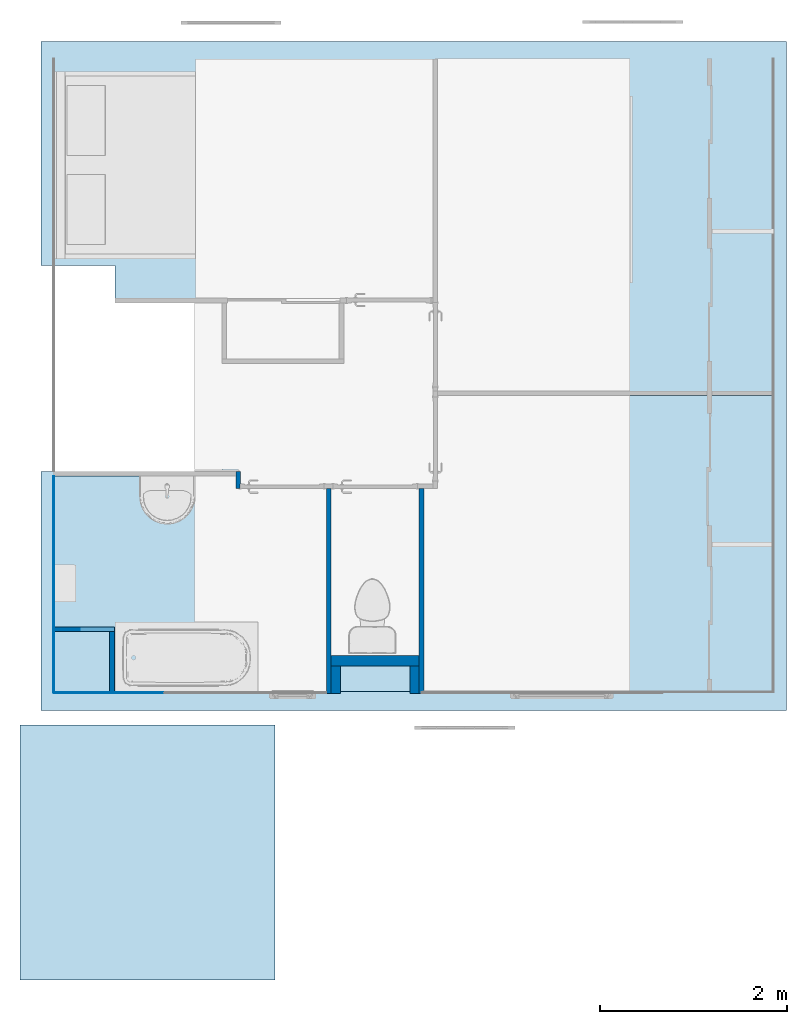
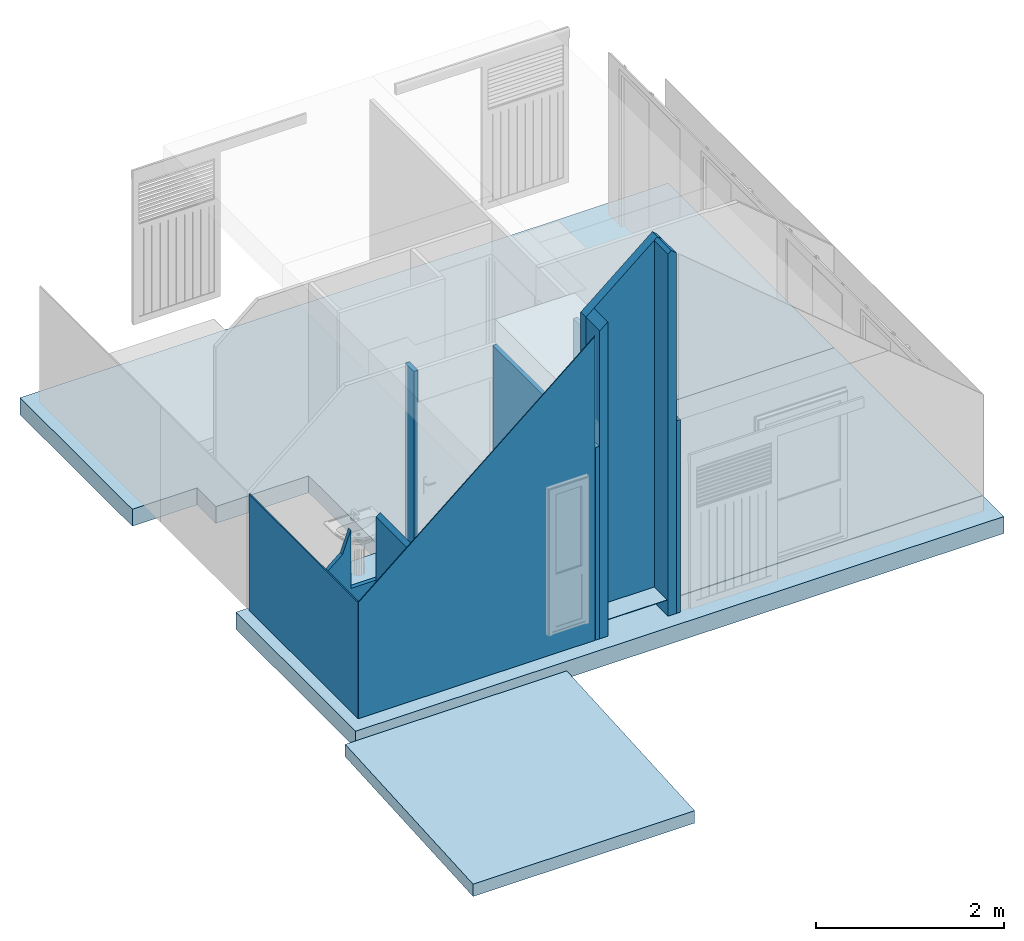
# One storey, part 1 of 11: 10 walls, 5 slabs, 1 opening.
"""IFC2X3 building model written with IfcOpenShell, lengths in metres."""

import ifcopenshell
import ifcopenshell.guid

model = None  # the IFC model being written
_history = None  # IfcOwnerHistory: only IFC2X3 demands one
_inside = {}  # id of a spatial element -> (the spatial element, [elements in it])
_under = {}  # id of a project, library or spatial element -> (it, [spatial elements below it])
_declared = {}  # id of a project -> (the project, [libraries it declares])
_typed = {}  # id of a type object -> (the type object, [elements of that type])
_made_of = {}  # id of a material, layer set ... -> (it, [elements and type objects made of it])


def new_model(schema):
    """Start an empty IFC model of exactly this schema.

    Asked for "IFC4X3", IfcOpenShell would pick the latest addendum, in which some entities
    have other attributes; the version numbers below select the first issue.
    IFC2X3 requires an IfcOwnerHistory on every rooted entity: one is made here for all.
    """
    global model, _history
    if schema == "IFC4X3":
        model = ifcopenshell.file(schema_version=(4, 3, 0, 0))
    else:
        model = ifcopenshell.file(schema=schema)
    _inside.clear()
    _under.clear()
    _declared.clear()
    _typed.clear()
    _made_of.clear()
    _history = None
    if model.schema == "IFC2X3":
        org = make("IfcOrganization", Name="unknown")
        user = make(
            "IfcPersonAndOrganization",
            ThePerson=make("IfcPerson", FamilyName="unknown"),
            TheOrganization=org,
        )
        app = make(
            "IfcApplication",
            ApplicationDeveloper=org,
            Version="unknown",
            ApplicationFullName="unknown",
            ApplicationIdentifier="unknown",
        )
        _history = make(
            "IfcOwnerHistory",
            OwningUser=user,
            OwningApplication=app,
            ChangeAction="ADDED",
            CreationDate=0,
        )
    return model


def make(cls, **values):
    """One entity of the class cls with the attributes given. An attribute that is None is left unset."""
    return model.create_entity(
        cls, **{name: value for name, value in values.items() if value is not None}
    )


def entity(cls, *values):
    """Any entity or typed value of the class cls, its attributes in the order of the schema. None: left unset."""
    e = model.create_entity(cls)
    for i, value in enumerate(values):
        if value is not None:
            e[i] = value
    return e


def rooted(cls, **values):
    """An entity with a GlobalId (a new one), such as an element, a storey or a relation."""
    return make(cls, GlobalId=ifcopenshell.guid.new(), OwnerHistory=_history, **values)


def si_unit(unit_type, name, prefix=None):
    """IfcSIUnit, for example si_unit("LENGTHUNIT", "METRE", prefix="MILLI")."""
    return make("IfcSIUnit", UnitType=unit_type, Prefix=prefix, Name=name)


def converted_unit(unit_type, name, factor, base, dimensions=None, offset=None):
    """IfcConversionBasedUnit, such as the inch: factor (a typed value) times the base unit."""
    return make(
        "IfcConversionBasedUnit"
        if offset is None
        else "IfcConversionBasedUnitWithOffset",
        ConversionOffset=offset,
        Dimensions=None
        if dimensions is None
        else entity("IfcDimensionalExponents", *dimensions),
        UnitType=unit_type,
        Name=name,
        ConversionFactor=make(
            "IfcMeasureWithUnit", ValueComponent=factor, UnitComponent=base
        ),
    )


def derived_unit(unit_type, elements):
    """IfcDerivedUnit: a product of units, each with its exponent."""
    return make(
        "IfcDerivedUnit",
        Elements=[
            make("IfcDerivedUnitElement", Unit=unit, Exponent=power)
            for unit, power in elements
        ],
        UnitType=unit_type,
    )


def assignment(units):
    """IfcUnitAssignment: the units of a project."""
    return None if units is None else make("IfcUnitAssignment", Units=units)


def point(xyz):
    """IfcCartesianPoint."""
    return None if xyz is None else make("IfcCartesianPoint", Coordinates=xyz)


def direction(xyz):
    """IfcDirection."""
    return None if xyz is None else make("IfcDirection", DirectionRatios=xyz)


def frame(location, z_axis=None, x_axis=None):
    """IfcAxis2Placement3D, a coordinate frame: its origin and axes. An axis left out is left unset."""
    return make(
        "IfcAxis2Placement3D",
        Location=point(location),
        Axis=direction(z_axis),
        RefDirection=direction(x_axis),
    )


def frame_2d(location, x_axis=None):
    """IfcAxis2Placement2D, a coordinate frame in the plane: its origin and x axis."""
    return make(
        "IfcAxis2Placement2D", Location=point(location), RefDirection=direction(x_axis)
    )


def origin():
    """The frame at (0, 0, 0) with its axes left unset."""
    return frame((0.0, 0.0, 0.0))


def place(relative_to, where):
    """IfcLocalPlacement: puts the frame where relative to a parent placement (None: the world)."""
    return make(
        "IfcLocalPlacement", PlacementRelTo=relative_to, RelativePlacement=where
    )


def context(
    kind, dimensions, precision=None, world=None, true_north=None, identifier=None
):
    """IfcGeometricRepresentationContext, for example the 3D "Model" context."""
    return make(
        "IfcGeometricRepresentationContext",
        ContextIdentifier=identifier,
        ContextType=kind,
        CoordinateSpaceDimension=dimensions,
        Precision=precision,
        WorldCoordinateSystem=world,
        TrueNorth=true_north,
    )


def subcontext(parent, identifier, kind, view, scale=None):
    """IfcGeometricRepresentationSubContext, for example "Body" below "Model"."""
    return make(
        "IfcGeometricRepresentationSubContext",
        ContextIdentifier=identifier,
        ContextType=kind,
        ParentContext=parent,
        TargetScale=scale,
        TargetView=view,
    )


def project(units=None, contexts=None):
    """IfcProject with its units and contexts."""
    return rooted(
        "IfcProject",
        Name="project",
        RepresentationContexts=contexts,
        UnitsInContext=assignment(units),
    )


def spatial(cls, under=None, at=None, **own):
    """A site, building, storey or space (cls), placed at a placement, below another one or the project."""
    s = rooted(cls, ObjectPlacement=at, **own)
    if under is not None:
        _under.setdefault(under.id(), (under, []))[1].append(s)
    return s


def polyline(points):
    """IfcPolyline through the points."""
    return make("IfcPolyline", Points=[point(p) for p in points])


def profile(cls, at=None, kind="AREA", **sizes):
    """A parametric profile (cls). Its sizes go by their IFC names, for example OverallWidth=200.0."""
    return make(cls, ProfileType=kind, Position=at, **sizes)


def rectangle(**sizes):
    """IfcRectangleProfileDef."""
    return profile("IfcRectangleProfileDef", **sizes)


def outline(outer, holes=None, kind="AREA"):
    """IfcArbitraryClosedProfileDef: a profile drawn as a closed curve; with holes, ...WithVoids."""
    if holes is None:
        return make("IfcArbitraryClosedProfileDef", ProfileType=kind, OuterCurve=outer)
    return make(
        "IfcArbitraryProfileDefWithVoids",
        ProfileType=kind,
        OuterCurve=outer,
        InnerCurves=holes,
    )


def extrude(swept, where, along, depth):
    """IfcExtrudedAreaSolid: the profile swept, set in the frame where, extruded along a direction by depth."""
    return make(
        "IfcExtrudedAreaSolid",
        SweptArea=swept,
        Position=where,
        ExtrudedDirection=direction(along),
        Depth=depth,
    )


def clip(a, b, op="DIFFERENCE"):
    """IfcBooleanClippingResult: the solid a cut by the half space b."""
    return make(
        "IfcBooleanClippingResult", Operator=op, FirstOperand=a, SecondOperand=b
    )


def halfspace(plane, agree):
    """IfcHalfSpaceSolid: all space on one side of the plane z = 0 of the frame plane."""
    return make(
        "IfcHalfSpaceSolid",
        BaseSurface=make("IfcPlane", Position=plane),
        AgreementFlag=agree,
    )


def bounded_halfspace(plane, agree, where, boundary):
    """IfcPolygonalBoundedHalfSpace: a half space limited to a polygon's prism."""
    return make(
        "IfcPolygonalBoundedHalfSpace",
        BaseSurface=make("IfcPlane", Position=plane),
        AgreementFlag=agree,
        Position=where,
        PolygonalBoundary=boundary,
    )


def shape(context_of_items, identifier, shape_type, items):
    """IfcShapeRepresentation: the items that make up one representation, for example the "Body"."""
    return make(
        "IfcShapeRepresentation",
        ContextOfItems=context_of_items,
        RepresentationIdentifier=identifier,
        RepresentationType=shape_type,
        Items=items,
    )


def material(Name=None, Category=None):
    """IfcMaterial."""
    return make("IfcMaterial", Name=Name, Category=Category)


def layer(
    of_material, thickness, ventilated=None, Name=None, Category=None, Priority=None
):
    """IfcMaterialLayer: one layer of a wall or slab, of a material (None: an air gap)."""
    return make(
        "IfcMaterialLayer",
        Material=of_material,
        LayerThickness=thickness,
        IsVentilated=ventilated,
        Name=Name,
        Category=Category,
        Priority=Priority,
    )


def layer_set(layers, Name=None):
    """IfcMaterialLayerSet."""
    return make("IfcMaterialLayerSet", MaterialLayers=layers, LayerSetName=Name)


def layer_usage(for_layer_set, set_direction, sense, offset, extent=None):
    """IfcMaterialLayerSetUsage: how a layer set lies in its element."""
    return make(
        "IfcMaterialLayerSetUsage",
        ForLayerSet=for_layer_set,
        LayerSetDirection=set_direction,
        DirectionSense=sense,
        OffsetFromReferenceLine=offset,
        ReferenceExtent=extent,
    )


def made_of(thing, what):
    """Note that an element or type object is made of a material, layer set ...; save() writes the relation."""
    if what is not None:
        _made_of.setdefault(what.id(), (what, []))[1].append(thing)
    return thing


def type_object(cls, material=None, **own):
    """A type object (cls), such as IfcWallType, which elements share."""
    return made_of(rooted(cls, **own), material)


def element(
    cls,
    number,
    at=None,
    inside=None,
    cuts=None,
    type_object=None,
    material=None,
    context=None,
    identifier="Body",
    shape_type=None,
    held_by="IfcProductDefinitionShape",
    body=None,
    shapes=None,
    **own,
):
    """One element of the class cls, such as IfcWall. Its Tag is "e" and its number.

    at: its placement. inside: the storey or other place that contains it. cuts: it is an
    opening in that element (IfcRelVoidsElement). A single representation is given by context,
    identifier, shape_type and body (its items); several are given by shapes. held_by: the class
    of the entity that holds the representations. save() writes the other relations.
    """
    e = rooted(cls, Tag="e%d" % number, ObjectPlacement=at, **own)
    if body is not None:
        shapes = [shape(context, identifier, shape_type, body)]
    if shapes is not None:
        e.Representation = make(held_by, Representations=shapes)
    if inside is not None:
        _inside.setdefault(inside.id(), (inside, []))[1].append(e)
    if cuts is not None:
        rooted(
            "IfcRelVoidsElement", RelatingBuildingElement=cuts, RelatedOpeningElement=e
        )
    if type_object is not None:
        _typed.setdefault(type_object.id(), (type_object, []))[1].append(e)
    return made_of(e, material)


def aggregate(whole, parts):
    """IfcRelAggregates: a whole, such as a stair, and the parts it consists of."""
    return rooted("IfcRelAggregates", RelatingObject=whole, RelatedObjects=parts)


def save(model, path):
    """Write the relations noted so far, then the file.

    IfcRelAggregates (storeys below a building ...), IfcRelContainedInSpatialStructure (elements
    in a storey), IfcRelDefinesByType, IfcRelAssociatesMaterial and IfcRelDeclares: one each for
    every whole, place, type object, material and project.
    """
    for whole, parts in _under.values():
        aggregate(whole, parts)
    for where, things in _inside.values():
        rooted(
            "IfcRelContainedInSpatialStructure",
            RelatedElements=things,
            RelatingStructure=where,
        )
    for kind, things in _typed.values():
        rooted("IfcRelDefinesByType", RelatedObjects=things, RelatingType=kind)
    for what, things in _made_of.values():
        rooted("IfcRelAssociatesMaterial", RelatedObjects=things, RelatingMaterial=what)
    for by, libraries in _declared.values():
        rooted("IfcRelDeclares", RelatingContext=by, RelatedDefinitions=libraries)
    model.write(path)


model = new_model("IFC2X3")

# Units and contexts
model_context = context("Model", 3, precision=1e-05, world=origin(), true_north=direction((6.12303176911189e-17, 1.0)))
body_context = subcontext(model_context, "Body", "Model", "MODEL_VIEW")
ifc_project = project(units=[si_unit("LENGTHUNIT", "METRE"), si_unit("AREAUNIT", "SQUARE_METRE"), si_unit("VOLUMEUNIT", "CUBIC_METRE"), converted_unit("PLANEANGLEUNIT", "DEGREE", entity("IfcRatioMeasure", 0.0174532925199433), si_unit("PLANEANGLEUNIT", "RADIAN"), dimensions=[0, 0, 0, 0, 0, 0, 0]), si_unit("MASSUNIT", "GRAM", prefix="KILO"), derived_unit("MASSDENSITYUNIT", [(si_unit("MASSUNIT", "GRAM", prefix="KILO"), 1), (si_unit("LENGTHUNIT", "METRE"), -3)]), derived_unit("MOMENTOFINERTIAUNIT", [(si_unit("LENGTHUNIT", "METRE"), 4)]), si_unit("TIMEUNIT", "SECOND"), si_unit("FREQUENCYUNIT", "HERTZ"), si_unit("THERMODYNAMICTEMPERATUREUNIT", "DEGREE_CELSIUS"), derived_unit("THERMALTRANSMITTANCEUNIT", [(si_unit("MASSUNIT", "GRAM", prefix="KILO"), 1), (si_unit("THERMODYNAMICTEMPERATUREUNIT", "KELVIN"), -1), (si_unit("TIMEUNIT", "SECOND"), -3)]), derived_unit("VOLUMETRICFLOWRATEUNIT", [(si_unit("LENGTHUNIT", "METRE"), 3), (si_unit("TIMEUNIT", "SECOND"), -1)]), si_unit("ELECTRICCURRENTUNIT", "AMPERE"), si_unit("ELECTRICVOLTAGEUNIT", "VOLT"), si_unit("POWERUNIT", "WATT"), si_unit("FORCEUNIT", "NEWTON", prefix="KILO"), si_unit("ILLUMINANCEUNIT", "LUX"), si_unit("LUMINOUSFLUXUNIT", "LUMEN"), si_unit("LUMINOUSINTENSITYUNIT", "CANDELA"), derived_unit("USERDEFINED", [(si_unit("MASSUNIT", "GRAM", prefix="KILO"), -1), (si_unit("LENGTHUNIT", "METRE"), -2), (si_unit("TIMEUNIT", "SECOND"), 3), (si_unit("LUMINOUSFLUXUNIT", "LUMEN"), 1)]), derived_unit("LINEARVELOCITYUNIT", [(si_unit("LENGTHUNIT", "METRE"), 1), (si_unit("TIMEUNIT", "SECOND"), -1)]), si_unit("PRESSUREUNIT", "PASCAL"), derived_unit("USERDEFINED", [(si_unit("LENGTHUNIT", "METRE"), -2), (si_unit("MASSUNIT", "GRAM", prefix="KILO"), 1), (si_unit("TIMEUNIT", "SECOND"), -2)]), derived_unit("LINEARFORCEUNIT", [(si_unit("MASSUNIT", "GRAM", prefix="KILO"), 1), (si_unit("LENGTHUNIT", "METRE"), 1), (si_unit("TIMEUNIT", "SECOND"), -2), (si_unit("LENGTHUNIT", "METRE"), -1)]), derived_unit("PLANARFORCEUNIT", [(si_unit("MASSUNIT", "GRAM", prefix="KILO"), 1), (si_unit("LENGTHUNIT", "METRE"), 1), (si_unit("TIMEUNIT", "SECOND"), -2), (si_unit("LENGTHUNIT", "METRE"), -2)])], contexts=[model_context])

# Site, building, storey
site_placement = place(None, origin())
site = spatial("IfcSite", under=ifc_project, at=site_placement, Name="Surface", CompositionType="ELEMENT")
building_placement = place(site_placement, origin())
building = spatial("IfcBuilding", under=site, at=building_placement, CompositionType="ELEMENT")
storey_placement = place(building_placement, frame((0.0, 0.0, 2.72)))
storey = spatial("IfcBuildingStorey", under=building, at=storey_placement, Name="02 ETG", CompositionType="ELEMENT", Elevation=2.72)

# Slabs
ifc_material_1 = material(Name="Maçonnerie - Béton Blanc")
ifc_layer_1 = layer(ifc_material_1, 0.16)
ifc_layer_set_1 = layer_set([ifc_layer_1], Name="Sol:Dalle en béton - 16")
ifc_layer_usage_1 = layer_usage(ifc_layer_set_1, "AXIS3", "POSITIVE", 0.0)
slab_type_1 = type_object("IfcSlabType", Name="Sol:Dalle en béton - 16", PredefinedType="FLOOR", material=ifc_layer_set_1)
slab_1_placement = place(storey_placement, origin())
element("IfcSlab", 1, at=slab_1_placement, inside=storey, type_object=slab_type_1, material=ifc_layer_usage_1, Name="Sol:Dalle en béton - 16", ObjectType="Sol:Dalle en béton - 16", PredefinedType="FLOOR", context=body_context, shape_type="Clipping", body=[
    clip(clip(extrude(rectangle(XDim=2.72488245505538, YDim=2.72172542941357, at=frame_2d((-2.22044604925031e-16, 0.0), x_axis=(1.0, 0.0))), frame((6.7406988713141, -5.03586095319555, -0.0831750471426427), z_axis=(0.0, 0.0610485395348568, -0.998134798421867), x_axis=(0.0, 0.998134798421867, 0.0610485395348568)), (-0.0610485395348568, 0.0, 0.998134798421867), 0.160598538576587), halfspace(frame((8.10156158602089, -3.67596095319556, -0.160298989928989), z_axis=(0.0, 0.0610485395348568, -0.998134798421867), x_axis=(0.0, 0.998134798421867, 0.0610485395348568)), False)), halfspace(frame((8.10156158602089, -3.67596095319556, 0.0), z_axis=(0.0, -0.0610485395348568, 0.998134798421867), x_axis=(0.0, -0.998134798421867, -0.0610485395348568)), False)),
])
ifc_material_2 = material(Name="FF PVC RAL 1015")
ifc_layer_2 = layer(ifc_material_2, 0.01)
ifc_material_3 = material(Name="Béton - Béton précoulé - 35 MPa")
ifc_layer_3 = layer(ifc_material_3, 0.21)
ifc_layer_set_2 = layer_set([ifc_layer_2, ifc_layer_3], Name="Sol:Dalle en béton - 22")
ifc_layer_usage_2 = layer_usage(ifc_layer_set_2, "AXIS3", "POSITIVE", 0.0)
slab_type_2 = type_object("IfcSlabType", Name="Sol:Dalle en béton - 22", PredefinedType="FLOOR", material=ifc_layer_set_2)
slab_2_placement = place(storey_placement, origin())
element("IfcSlab", 2, at=slab_2_placement, inside=storey, type_object=slab_type_2, material=ifc_layer_usage_2, Name="Sol:Dalle en béton - 22", ObjectType="Sol:Dalle en béton - 22", PredefinedType="FLOOR", context=body_context, shape_type="SweptSolid", body=[
    extrude(outline(polyline([(0.992199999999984, -2.13800000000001), (3.3812, -2.13800000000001), (3.38120000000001, 5.82199999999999), (-3.75779999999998, 5.822), (-3.7578, -2.13799999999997), (-1.20780000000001, -2.13799999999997), (-1.2078, -0.202999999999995), (0.592200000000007, -0.203000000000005), (0.592200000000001, -1.34300000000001), (0.992199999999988, -1.34300000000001), (0.992199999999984, -2.13800000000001)])), frame((7.73956158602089, 0.241839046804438, -0.00500000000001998), z_axis=(0.0, 0.0, -1.0), x_axis=(0.0, 1.0, 0.0)), (0.0, 0.0, 1.0), 0.22),
])
ifc_material_4 = material(Name="Maçonnerie - Béton")
ifc_layer_4 = layer(ifc_material_4, 0.005)
ifc_layer_set_3 = layer_set([ifc_layer_4], Name="Sol:Chappe 10 PVC-TX SELECTION 100*1500 2")
ifc_layer_usage_3 = layer_usage(ifc_layer_set_3, "AXIS3", "POSITIVE", 0.0)
slab_type_3 = type_object("IfcSlabType", Name="Sol:Chappe 10 PVC-TX SELECTION 100*1500 2", PredefinedType="FLOOR", material=ifc_layer_set_3)
slab_3_placement = place(storey_placement, origin())
element("IfcSlab", 3, at=slab_3_placement, inside=storey, type_object=slab_type_3, material=ifc_layer_usage_3, Name="Sol:Chappe 10 PVC-TX SELECTION 100*1500 2", ObjectType="Sol:Chappe 10 PVC-TX SELECTION 100*1500 2", PredefinedType="FLOOR", context=body_context, shape_type="SweptSolid", body=[
    extrude(outline(polyline([(-1.77583333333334, -1.29000000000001), (0.391666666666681, -1.29000000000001), (0.391666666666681, -1.14500000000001), (1.38416666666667, -1.14500000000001), (1.38416666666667, 2.43500000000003), (-1.77583333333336, 2.43500000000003), (-1.77583333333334, -1.29000000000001)])), frame((10.9815615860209, -1.54012761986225, 0.199999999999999), z_axis=(0.0, 0.0, -1.0), x_axis=(0.0, 1.0, 0.0)), (0.0, 0.0, 1.0), 0.00499999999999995),
])
ifc_layer_usage_4 = layer_usage(ifc_layer_set_3, "AXIS3", "POSITIVE", 0.0)
slab_type_4 = type_object("IfcSlabType", Name="Sol:Chappe 10 PVC-TX SELECTION 100*1500 2", PredefinedType="FLOOR", material=ifc_layer_set_3)
slab_4_placement = place(storey_placement, origin())
element("IfcSlab", 4, at=slab_4_placement, inside=storey, type_object=slab_type_4, material=ifc_layer_usage_4, Name="Sol:Chappe 10 PVC-TX SELECTION 100*1500 2", ObjectType="Sol:Chappe 10 PVC-TX SELECTION 100*1500 2", PredefinedType="FLOOR", context=body_context, shape_type="SweptSolid", body=[
    extrude(outline(polyline([(-1.49583333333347, -1.61416666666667), (0.814166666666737, -1.61416666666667), (0.814166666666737, 0.323333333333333), (0.681666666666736, 0.323333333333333), (0.681666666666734, 1.29083333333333), (-1.49583333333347, 1.29083333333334), (-1.49583333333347, -1.61416666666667)])), frame((7.36072825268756, -1.8301276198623, 0.199999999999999), z_axis=(0.0, 0.0, -1.0), x_axis=(0.0, 1.0, 0.0)), (0.0, 0.0, 1.0), 0.00499999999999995),
])
ifc_layer_usage_5 = layer_usage(ifc_layer_set_3, "AXIS3", "POSITIVE", 0.0)
slab_type_5 = type_object("IfcSlabType", Name="Sol:Chappe 10 PVC-TX SELECTION 100*1500 2", PredefinedType="FLOOR", material=ifc_layer_set_3)
slab_5_placement = place(storey_placement, origin())
element("IfcSlab", 5, at=slab_5_placement, inside=storey, type_object=slab_type_5, material=ifc_layer_usage_5, Name="Sol:Chappe 10 PVC-TX SELECTION 100*1500 2", ObjectType="Sol:Chappe 10 PVC-TX SELECTION 100*1500 2", PredefinedType="FLOOR", context=body_context, shape_type="SweptSolid", body=[
    extrude(rectangle(XDim=2.16749999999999, YDim=0.94, at=frame_2d((0.0, -1.08246744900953e-15), x_axis=(1.0, 0.0))), frame((9.17156158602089, -2.23221095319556, 0.2), z_axis=(0.0, 0.0, -1.0), x_axis=(0.0, 1.0, 0.0)), (0.0, 0.0, 1.0), 0.00499999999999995),
])

# Walls
ifc_material_5 = material(Name="Isolant - laine minérale")
ifc_layer_5 = layer(ifc_material_5, 0.1)
ifc_layer_set_4 = layer_set([ifc_layer_5], Name="Mur de base:Int. Polyester 100 mm")
ifc_layer_usage_6 = layer_usage(ifc_layer_set_4, "AXIS2", "POSITIVE", -0.05)
wall_type_1 = type_object("IfcWallType", Name="Mur de base:Int. Polyester 100 mm", PredefinedType="STANDARD", material=ifc_layer_set_4)
wall_1_placement = place(storey_placement, frame((9.59156158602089, -3.04096095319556, 0.0), z_axis=(0.0, 0.0, 1.0), x_axis=(0.0, -1.0, 0.0)))
element("IfcWallStandardCase", 6, at=wall_1_placement, inside=storey, type_object=wall_type_1, material=ifc_layer_usage_6, Name="Mur de base:Int. Polyester 100 mm", ObjectType="Mur de base:Int. Polyester 100 mm", context=body_context, shape_type="Clipping", body=[
    clip(clip(extrude(rectangle(XDim=0.295000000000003, YDim=0.0999999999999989, at=frame_2d((0.147500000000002, 0.0), x_axis=(-1.0, 0.0))), origin(), (0.0, 0.0, 1.0), 4.73289498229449), bounded_halfspace(frame((0.0, -0.0500000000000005, 4.6993309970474), z_axis=(0.0, -0.642787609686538, 0.766044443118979), x_axis=(1.0, 0.0, 0.0)), False, frame((0.0, -0.0500000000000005, 4.6993309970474)), polyline([(0.0, 0.0), (0.295000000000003, 0.0), (0.295000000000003, 0.0399999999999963), (0.0, 0.0399999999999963), (0.0, 0.0)]))), bounded_halfspace(frame((0.295000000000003, -0.0100000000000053, 4.73289498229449), z_axis=(0.0, 0.642787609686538, 0.766044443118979), x_axis=(-1.0, 0.0, 0.0)), False, frame((0.295000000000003, -0.0100000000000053, 4.73289498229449)), polyline([(0.0, 0.0), (0.0, 0.0600000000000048), (-0.295000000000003, 0.0600000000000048), (-0.295000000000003, 0.0), (0.0, 0.0)]))),
])
ifc_layer_usage_7 = layer_usage(ifc_layer_set_4, "AXIS2", "NEGATIVE", 0.05)
wall_2_placement = place(storey_placement, frame((8.75156158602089, -3.04096095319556, 0.0), z_axis=(0.0, 0.0, 1.0), x_axis=(0.0, -1.0, 0.0)))
element("IfcWallStandardCase", 7, at=wall_2_placement, inside=storey, type_object=wall_type_1, material=ifc_layer_usage_7, Name="Mur de base:Int. Polyester 100 mm", ObjectType="Mur de base:Int. Polyester 100 mm", context=body_context, shape_type="Clipping", body=[
    clip(extrude(rectangle(XDim=0.295000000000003, YDim=0.100000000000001, at=frame_2d((0.147500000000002, 0.0), x_axis=(-1.0, 0.0))), origin(), (0.0, 0.0, 1.0), 4.07839726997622), bounded_halfspace(frame((0.0, -0.0499999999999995, 3.99448730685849), z_axis=(0.0, -0.642787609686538, 0.766044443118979), x_axis=(1.0, 0.0, 0.0)), False, frame((0.0, -0.0499999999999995, 3.99448730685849)), polyline([(0.0, 0.0), (0.295000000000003, 0.0), (0.295000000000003, 0.1), (0.0, 0.1), (0.0, 0.0)]))),
])
ifc_material_6 = material(Name="Mur par défaut")
ifc_layer_6 = layer(ifc_material_6, 0.05)
ifc_layer_set_5 = layer_set([ifc_layer_6], Name="Mur de base:Int. Plâtre 50 mm")
ifc_layer_usage_8 = layer_usage(ifc_layer_set_5, "AXIS2", "NEGATIVE", 0.025)
wall_type_2 = type_object("IfcWallType", Name="Mur de base:Int. Plâtre 50 mm", PredefinedType="STANDARD", material=ifc_layer_set_5)
wall_3_placement = place(storey_placement, frame((5.74656158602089, -2.65096095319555, 0.0)))
element("IfcWallStandardCase", 8, at=wall_3_placement, inside=storey, type_object=wall_type_2, material=ifc_layer_usage_8, Name="Mur de base:Int. Plâtre 50 mm", ObjectType="Mur de base:Int. Plâtre 50 mm", context=body_context, shape_type="Clipping", body=[
    clip(clip(clip(extrude(rectangle(XDim=0.64, YDim=0.0500000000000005, at=frame_2d((0.32, 2.60208521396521e-17), x_axis=(-1.0, 0.0))), origin(), (0.0, 0.0, 1.0), 1.94566086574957), bounded_halfspace(frame((0.0, -0.0249999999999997, 1.51494789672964), z_axis=(-0.642787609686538, 0.0, 0.766044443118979), x_axis=(0.0, -1.0, 0.0)), False, frame((0.0, -0.0249999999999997, 1.51494789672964)), polyline([(0.0, 0.0), (0.177339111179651, 0.0), (0.177339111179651, 0.0500000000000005), (0.0, 0.05), (0.0, 0.0)]))), bounded_halfspace(frame((0.177339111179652, -0.0249999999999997, 1.66375307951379), z_axis=(-0.939692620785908, 0.0, 0.342020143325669), x_axis=(0.0, 1.0, 0.0)), False, frame((0.177339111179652, -0.0249999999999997, 1.66375307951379)), polyline([(0.0, 0.0), (0.102606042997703, 0.0), (0.102606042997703, 0.05), (0.0, 0.05), (0.0, 0.0)]))), bounded_halfspace(frame((0.279945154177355, -0.0249999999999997, 1.19), z_axis=(0.0, 0.0, 1.0), x_axis=(0.0, 1.0, 0.0)), False, frame((0.279945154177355, -0.0249999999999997, 1.19)), polyline([(0.0, 0.0), (0.310054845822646, 0.0), (0.360054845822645, 0.0), (0.360054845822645, 0.05), (0.0, 0.05), (0.0, 0.0)]))),
])
ifc_layer_usage_9 = layer_usage(ifc_layer_set_5, "AXIS2", "NEGATIVE", 0.025)
wall_4_placement = place(storey_placement, frame((6.36156158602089, -2.67596095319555, 0.0), z_axis=(0.0, 0.0, 1.0), x_axis=(0.0, -1.0, 0.0)))
element("IfcWallStandardCase", 9, at=wall_4_placement, inside=storey, type_object=wall_type_2, material=ifc_layer_usage_9, Name="Mur de base:Int. Plâtre 50 mm", ObjectType="Mur de base:Int. Plâtre 50 mm", context=body_context, shape_type="Clipping", body=[
    clip(clip(extrude(rectangle(XDim=0.65, YDim=0.0499999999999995, at=frame_2d((0.325, -6.59194920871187e-17), x_axis=(-1.0, 0.0))), origin(), (0.0, 0.0, 1.0), 2.05197166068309), bounded_halfspace(frame((0.00070549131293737, -0.0250000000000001, 2.01001667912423), z_axis=(0.0, -0.642787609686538, 0.766044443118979), x_axis=(1.0, 0.0, 0.0)), False, frame((0.00070549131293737, -0.0250000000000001, 2.01001667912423)), polyline([(0.0, 0.0), (0.649294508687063, 0.0), (0.649294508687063, 0.0499999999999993), (0.0, 0.0499999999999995), (0.0, 0.0)]))), bounded_halfspace(frame((0.0, -0.0250000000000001, 1.19), z_axis=(0.0, 0.0, 1.0), x_axis=(0.0, 1.0, 0.0)), False, frame((0.0, -0.0250000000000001, 1.19)), polyline([(0.0, 0.0), (0.00070549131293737, 0.0), (0.00070549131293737, 0.0499999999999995), (0.0, 0.0499999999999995), (0.0, 0.0)]))),
])

# Wall, opening
ifc_layer_7 = layer(ifc_material_6, 0.05)
ifc_layer_set_6 = layer_set([ifc_layer_7], Name="Mur de base:cloison séche - B.A10")
ifc_layer_usage_10 = layer_usage(ifc_layer_set_6, "AXIS2", "NEGATIVE", 0.025)
wall_type_3 = type_object("IfcWallType", Name="Mur de base:cloison séche - B.A10", PredefinedType="STANDARD", material=ifc_layer_set_6)
wall_5_placement = place(storey_placement, frame((7.70906158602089, -0.965960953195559, 0.0), z_axis=(0.0, 0.0, 1.0), x_axis=(0.0, -1.0, 0.0)))
wall_5 = element("IfcWallStandardCase", 10, at=wall_5_placement, inside=storey, type_object=wall_type_3, material=ifc_layer_usage_10, Name="Mur de base:cloison séche - B.A10", ObjectType="Mur de base:cloison séche - B.A10", context=body_context, shape_type="Clipping", body=[
    clip(extrude(rectangle(XDim=0.182500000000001, YDim=0.0499999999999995, at=frame_2d((0.0912500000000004, 2.04697370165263e-16), x_axis=(-1.0, 0.0))), origin(), (0.0, 0.0, 1.0), 2.5), bounded_halfspace(frame((0.157500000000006, 0.0250000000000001, 2.5), z_axis=(0.0, 0.0, -1.0), x_axis=(0.0, 1.0, 0.0)), True, frame((0.157500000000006, 0.0250000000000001, 2.5)), polyline([(0.0, 0.0), (-0.0250000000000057, 0.0), (-0.157500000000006, 0.0), (-0.157500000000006, -0.0250000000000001), (0.0, -0.0249999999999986), (0.0, 0.0)]))),
])
opening_placement = place(wall_5_placement, origin())
element("IfcOpeningElement", 11, at=opening_placement, cuts=wall_5, Name="Mur de base:cloison séche - B.A10", ObjectType="Opening", context=body_context, shape_type="SweptSolid", body=[
    extrude(rectangle(XDim=2.075, YDim=0.05, at=frame_2d((0.0, 3.33066907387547e-16), x_axis=(0.0, 1.0))), frame((0.157500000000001, 0.0187500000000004, 1.0375), z_axis=(0.0, 1.0, 0.0), x_axis=(-1.0, 0.0, 0.0)), (0.0, 0.0, 1.0), 0.9),
])

# Walls
ifc_layer_usage_11 = layer_usage(ifc_layer_set_6, "AXIS2", "NEGATIVE", 0.025)
wall_6_placement = place(storey_placement, frame((8.67656158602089, -1.14846095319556, 0.0), z_axis=(0.0, 0.0, 1.0), x_axis=(0.0, -1.0, 0.0)))
element("IfcWallStandardCase", 12, at=wall_6_placement, inside=storey, type_object=wall_type_3, material=ifc_layer_usage_11, Name="Mur de base:cloison séche - B.A10", ObjectType="Mur de base:cloison séche - B.A10", context=body_context, shape_type="Clipping", body=[
    clip(extrude(rectangle(XDim=2.1875, YDim=0.0499999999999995, at=frame_2d((1.09375, -3.46944695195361e-18), x_axis=(-1.0, 0.0))), origin(), (0.0, 0.0, 1.0), 2.5), bounded_halfspace(frame((0.0, -0.0250000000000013, 2.5), z_axis=(0.0, 0.0, -1.0), x_axis=(0.0, 1.0, 0.0)), True, frame((0.0, -0.0250000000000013, 2.5)), polyline([(0.0, 0.0), (2.18, 0.0), (2.18, 0.0450000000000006), (0.0, 0.0450000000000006), (0.0, 0.0)]))),
])
ifc_layer_usage_12 = layer_usage(ifc_layer_set_6, "AXIS2", "NEGATIVE", 0.025)
wall_7_placement = place(storey_placement, frame((9.66656158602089, -1.14846095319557, 0.0), z_axis=(0.0, 0.0, 1.0), x_axis=(0.0, -1.0, 0.0)))
element("IfcWallStandardCase", 13, at=wall_7_placement, inside=storey, type_object=wall_type_3, material=ifc_layer_usage_12, Name="Mur de base:cloison séche - B.A10", ObjectType="Mur de base:cloison séche - B.A10", context=body_context, shape_type="Clipping", body=[
    clip(extrude(rectangle(XDim=2.1875, YDim=0.0499999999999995, at=frame_2d((1.09375, -3.46944695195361e-18), x_axis=(-1.0, 0.0))), origin(), (0.0, 0.0, 1.0), 2.5), bounded_halfspace(frame((2.18250000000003, 0.0, 2.5), z_axis=(0.0, 0.0, -1.0), x_axis=(0.0, 1.0, 0.0)), True, frame((2.18250000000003, 0.0, 2.5)), polyline([(0.0, 0.0), (0.0, 0.0249999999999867), (-2.18250000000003, 0.0249999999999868), (-2.18250000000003, 0.0), (0.0, 0.0)]))),
])
ifc_material_7 = material(Name="Placoplâtre de gypse")
ifc_layer_8 = layer(ifc_material_7, 0.01)
ifc_layer_9 = layer(ifc_material_5, 0.1)
ifc_layer_set_7 = layer_set([ifc_layer_8, ifc_layer_9], Name="Mur de base:Int. Polyester 100+10  mm")
ifc_layer_usage_13 = layer_usage(ifc_layer_set_7, "AXIS2", "POSITIVE", -0.055)
wall_type_4 = type_object("IfcWallType", Name="Mur de base:Int. Polyester 100+10  mm", PredefinedType="STANDARD", material=ifc_layer_set_7)
wall_8_placement = place(storey_placement, frame((9.64156158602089, -2.98596095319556, 0.0), z_axis=(0.0, 0.0, 1.0), x_axis=(-1.0, 0.0, 0.0)))
element("IfcWallStandardCase", 14, at=wall_8_placement, inside=storey, type_object=wall_type_4, material=ifc_layer_usage_13, Name="Mur de base:Int. Polyester 100+10  mm", ObjectType="Mur de base:Int. Polyester 100+10  mm", context=body_context, shape_type="Clipping", body=[
    clip(clip(extrude(rectangle(XDim=0.939999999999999, YDim=0.11, at=frame_2d((0.469999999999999, 2.77555756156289e-17), x_axis=(-1.0, 0.0))), origin(), (0.0, 0.0, 1.0), 4.73289498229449), bounded_halfspace(frame((0.0600000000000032, -0.055, 4.73289498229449), z_axis=(0.642787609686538, 0.0, 0.766044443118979), x_axis=(0.0, 1.0, 0.0)), False, frame((0.0600000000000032, -0.055, 4.73289498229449)), polyline([(0.0, 0.0), (0.879999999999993, 0.0), (0.879999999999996, 0.11), (0.779999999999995, 0.11), (0.039999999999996, 0.11), (0.0, 0.11), (0.0, 0.0)]))), bounded_halfspace(frame((0.0, -0.055, 4.68254900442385), z_axis=(-0.642787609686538, 0.0, 0.766044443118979), x_axis=(0.0, -1.0, 0.0)), False, frame((0.0, -0.055, 4.68254900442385)), polyline([(0.0, 0.0), (0.0600000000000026, 0.0), (0.0600000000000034, 0.11), (0.0, 0.11), (0.0, 0.0)]))),
])
ifc_layer_10 = layer(ifc_material_7, 0.01)
ifc_layer_set_8 = layer_set([ifc_layer_10], Name="Mur de base:Int. Plâtre 10 mm")
ifc_layer_usage_14 = layer_usage(ifc_layer_set_8, "AXIS2", "POSITIVE", -0.005)
wall_type_5 = type_object("IfcWallType", Name="Mur de base:Int. Plâtre 10 mm", PredefinedType="STANDARD", material=ifc_layer_set_8)
wall_9_placement = place(storey_placement, frame((5.74156158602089, -3.32596095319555, 0.0), z_axis=(0.0, 0.0, 1.0), x_axis=(0.0, 1.0, 0.0)))
element("IfcWallStandardCase", 15, at=wall_9_placement, inside=storey, type_object=wall_type_5, material=ifc_layer_usage_14, Name="Mur de base:Int. Plâtre 10 mm", ObjectType="Mur de base:Int. Plâtre 10 mm", context=body_context, shape_type="Clipping", body=[
    clip(extrude(rectangle(XDim=2.31, YDim=0.00999999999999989, at=frame_2d((1.155, -2.55871712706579e-17), x_axis=(-1.0, 0.0))), origin(), (0.0, 0.0, 1.0), 1.51494789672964), bounded_halfspace(frame((0.0, -0.00499999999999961, 1.51494789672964), z_axis=(0.0, 0.642787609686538, 0.766044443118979), x_axis=(-1.0, 0.0, 0.0)), False, frame((0.0, -0.00499999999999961, 1.51494789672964)), polyline([(0.0, 0.0), (0.65, 0.0), (0.7, 0.0), (2.31, 0.0), (2.31, 0.00999999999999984), (0.0, 0.00999999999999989), (0.0, 0.00499999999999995), (0.0, 0.0)]))),
])
ifc_layer_usage_15 = layer_usage(ifc_layer_set_8, "AXIS2", "POSITIVE", -0.005)
wall_10_placement = place(storey_placement, frame((8.64656158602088, -3.33096095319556, 0.0), z_axis=(0.0, 0.0, 1.0), x_axis=(-1.0, 0.0, 0.0)))
element("IfcWallStandardCase", 16, at=wall_10_placement, inside=storey, type_object=wall_type_5, material=ifc_layer_usage_15, Name="Mur de base:Int. Plâtre 10 mm", ObjectType="Mur de base:Int. Plâtre 10 mm", context=body_context, shape_type="Clipping", body=[
    clip(extrude(rectangle(XDim=2.905, YDim=0.00999999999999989, at=frame_2d((1.4525, -1.59594559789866e-16), x_axis=(-1.0, 0.0))), origin(), (0.0, 0.0, 1.0), 3.94833682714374), bounded_halfspace(frame((0.0, -0.00499999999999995, 3.94833682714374), z_axis=(0.642787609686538, 0.0, 0.766044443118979), x_axis=(0.0, 1.0, 0.0)), False, frame((0.0, -0.00499999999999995, 3.94833682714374)), polyline([(0.0, 0.0), (1.39499999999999, 0.0), (1.69499999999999, 0.0), (2.26, 0.0), (2.31, 0.0), (2.9, 0.0), (2.905, 0.0), (2.905, 0.00999999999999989), (0.0, 0.00999999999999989), (0.0, 0.0)]))),
])

save(model, "model.ifc")
